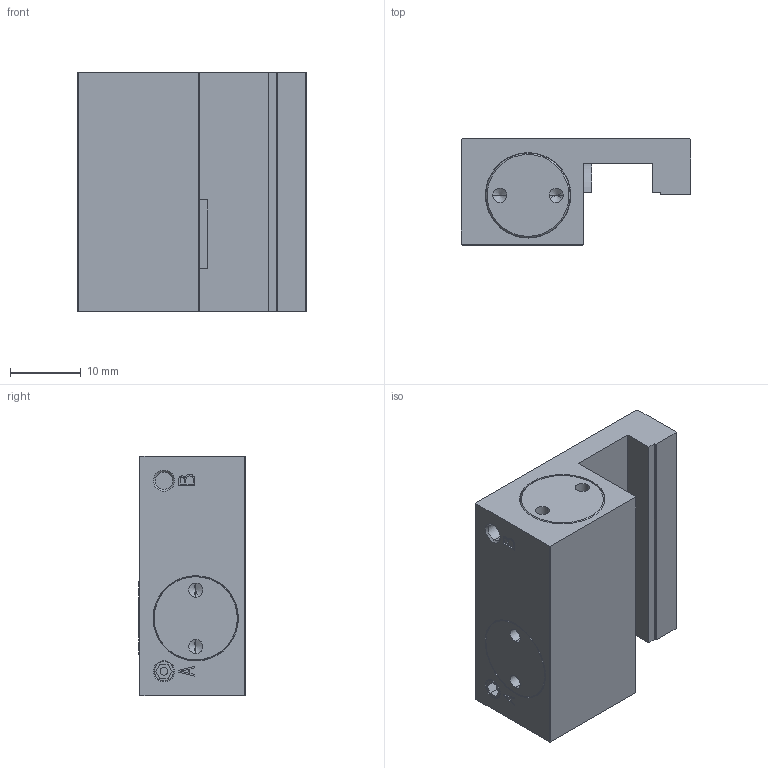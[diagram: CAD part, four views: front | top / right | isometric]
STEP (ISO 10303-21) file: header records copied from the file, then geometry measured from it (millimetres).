
FILE_DESCRIPTION( ( '' ), '1' );
FILE_NAME( 'E:/04 嬴檜蠱滌/0404 ZIMMER/040414 ZIMMER CAD download/MCP/MCP0914L---.stp', '2020-04-16T10:02:08', ( '' ), ( '' ), ' ', ' ', ' ' );
FILE_SCHEMA( ( 'automotive_design' ) );
Length unit declared in the file: millimetre
Products named in the file (1): 1
Bounding box: 32.5 x 15.05 x 34 mm (x, y, z)
Volume: 11363.5 mm3; surface area: 4627.8 mm2
Topology: 1 solids, 1 shells, 118 faces, 280 edges, 176 vertices
Faces by surface type: plane 64, cylinder 32, cone 22
Entity records: 6536 total; most frequent: DIRECTION 590, STYLED_ITEM 567, PRESENTATION_STYLE_ASSIGNMENT 567, CARTESIAN_POINT 567, COLOUR_RGB 567, ORIENTED_EDGE 544, EDGE_CURVE 272, CURVE_STYLE 272
